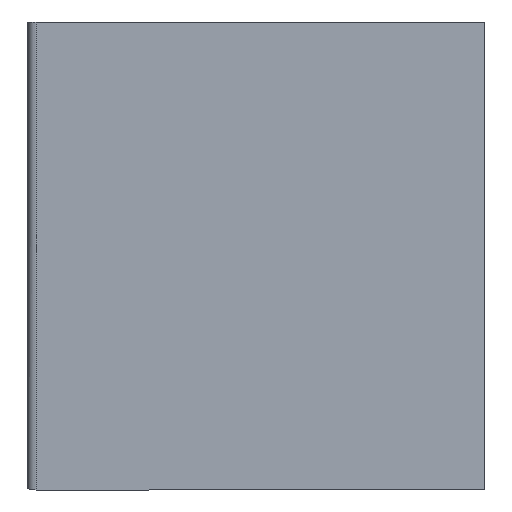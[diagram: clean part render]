
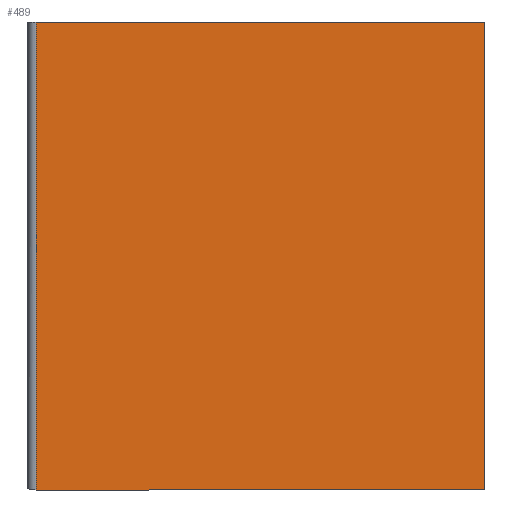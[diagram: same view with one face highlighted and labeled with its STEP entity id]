
A CAD part, left-side view. The second image highlights one B-rep face of the part: STEP entity #489.
In plain terms, the highlighted planar face has unit normal (-1, 0, 0).
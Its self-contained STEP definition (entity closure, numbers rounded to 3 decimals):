
#12 = VERTEX_POINT ( 'NONE', #322 ) ;
#16 = CARTESIAN_POINT ( 'NONE',  ( 0., 245.4, 43.722 ) ) ;
#35 = PLANE ( 'NONE',  #331 ) ;
#68 = VECTOR ( 'NONE', #179, 1000. ) ;
#73 = CARTESIAN_POINT ( 'NONE',  ( 0., 0., 43.722 ) ) ;
#75 = CARTESIAN_POINT ( 'NONE',  ( 0., 0., 300. ) ) ;
#86 = DIRECTION ( 'NONE',  ( -1., 0., 0. ) ) ;
#89 = LINE ( 'NONE', #75, #68 ) ;
#179 = DIRECTION ( 'NONE',  ( 0., 1., 0. ) ) ;
#184 = FACE_OUTER_BOUND ( 'NONE', #583, .T. ) ;
#189 = CARTESIAN_POINT ( 'NONE',  ( 0., 0., 300. ) ) ;
#195 = VERTEX_POINT ( 'NONE', #270 ) ;
#196 = VECTOR ( 'NONE', #597, 1000. ) ;
#206 = EDGE_CURVE ( 'NONE', #12, #321, #420, .T. ) ;
#258 = DIRECTION ( 'NONE',  ( 0., 0., -1. ) ) ;
#262 = EDGE_CURVE ( 'NONE', #625, #195, #400, .T. ) ;
#270 = CARTESIAN_POINT ( 'NONE',  ( 0., 0., 43.722 ) ) ;
#281 = VECTOR ( 'NONE', #258, 1000. ) ;
#306 = LINE ( 'NONE', #73, #196 ) ;
#321 = VERTEX_POINT ( 'NONE', #16 ) ;
#322 = CARTESIAN_POINT ( 'NONE',  ( 0., 245.4, 300. ) ) ;
#331 = AXIS2_PLACEMENT_3D ( 'NONE', #189, #86, #453 ) ;
#357 = CARTESIAN_POINT ( 'NONE',  ( 0., 245.4, 300. ) ) ;
#396 = CARTESIAN_POINT ( 'NONE',  ( 0., 0., 300. ) ) ;
#400 = LINE ( 'NONE', #396, #667 ) ;
#416 = CARTESIAN_POINT ( 'NONE',  ( 0., 0., 300. ) ) ;
#420 = LINE ( 'NONE', #357, #281 ) ;
#421 = ORIENTED_EDGE ( 'NONE', *, *, #422, .T. ) ;
#422 = EDGE_CURVE ( 'NONE', #625, #12, #89, .T. ) ;
#453 = DIRECTION ( 'NONE',  ( 0., 0., 1. ) ) ;
#470 = EDGE_CURVE ( 'NONE', #195, #321, #306, .T. ) ;
#488 = ORIENTED_EDGE ( 'NONE', *, *, #470, .F. ) ;
#489 = ADVANCED_FACE ( 'NONE', ( #184 ), #35, .T. ) ;
#508 = ORIENTED_EDGE ( 'NONE', *, *, #262, .F. ) ;
#528 = ORIENTED_EDGE ( 'NONE', *, *, #206, .T. ) ;
#583 = EDGE_LOOP ( 'NONE', ( #528, #488, #508, #421 ) ) ;
#597 = DIRECTION ( 'NONE',  ( 0., 1., 0. ) ) ;
#603 = DIRECTION ( 'NONE',  ( 0., 0., -1. ) ) ;
#625 = VERTEX_POINT ( 'NONE', #416 ) ;
#667 = VECTOR ( 'NONE', #603, 1000. ) ;
